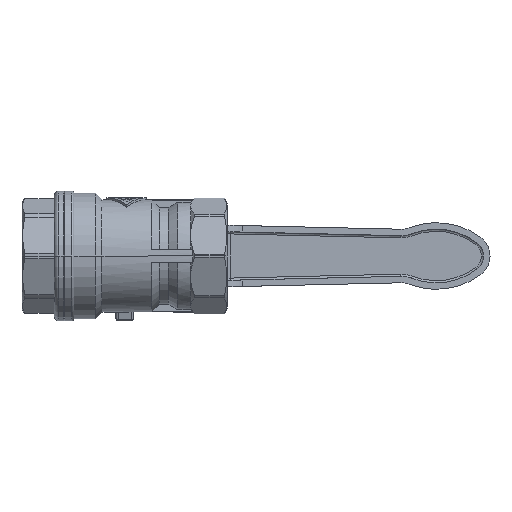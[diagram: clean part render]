
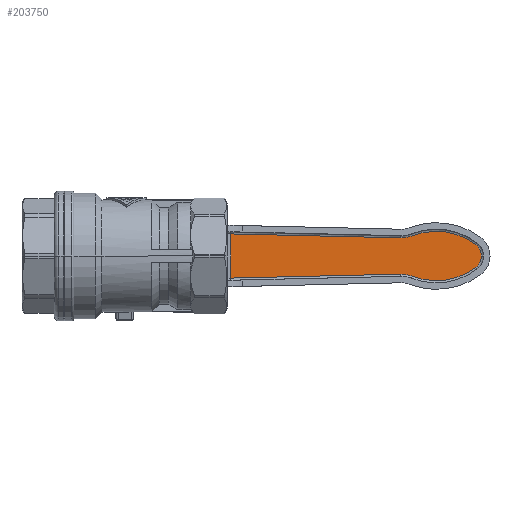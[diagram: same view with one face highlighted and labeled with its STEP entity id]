
A CAD part, front view. The second image highlights one B-rep face of the part: STEP entity #203750.
In plain terms, the highlighted planar face has unit normal (0, -1, 0).
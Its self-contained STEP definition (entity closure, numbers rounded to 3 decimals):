
#181770=CARTESIAN_POINT('',(0.,39.699,
-5.669));
#181780=DIRECTION('',(-1.,0.,
0.023));
#181790=VECTOR('',#181780,1.);
#181800=LINE('',#181770,#181790);
#181810=CARTESIAN_POINT('',(-24.485,39.699,
-5.105));
#181820=VERTEX_POINT('',#181810);
#181830=CARTESIAN_POINT('',(-63.838,39.699,
-4.199));
#181840=VERTEX_POINT('',#181830);
#181850=EDGE_CURVE('',#181820,#181840,#181800,.T.);
#182820=CARTESIAN_POINT('',(-24.485,39.699,
5.105));
#182830=VERTEX_POINT('',#182820);
#183790=CARTESIAN_POINT('',(-24.485,39.699,
0.));
#183800=DIRECTION('',(0.,0.,1.));
#183810=VECTOR('',#183800,1.);
#183820=LINE('',#183790,#183810);
#183830=EDGE_CURVE('',#181820,#182830,#183820,.T.);
#184010=CARTESIAN_POINT('',(-64.,39.699,
11.197));
#184020=DIRECTION('',(0.,1.,0.));
#184030=DIRECTION('',(-1.,0.,0.));
#184040=AXIS2_PLACEMENT_3D('',#184010,#184020,#184030);
#184050=CIRCLE('',#184040,7.);
#184060=CARTESIAN_POINT('',(-63.838,39.699,
4.199));
#184070=VERTEX_POINT('',#184060);
#184080=CARTESIAN_POINT('',(-66.547,39.699,
4.677));
#184090=VERTEX_POINT('',#184080);
#184100=EDGE_CURVE('',#184070,#184090,#184050,.T.);
#184420=CARTESIAN_POINT('',(-72.059,39.699,
-9.431));
#184430=DIRECTION('',(0.,1.,0.));
#184440=DIRECTION('',(-1.,0.,0.));
#184450=AXIS2_PLACEMENT_3D('',#184420,#184430,#184440);
#184460=CIRCLE('',#184450,15.147);
#184470=CARTESIAN_POINT('',(-81.167,39.699,
2.672));
#184480=VERTEX_POINT('',#184470);
#184490=EDGE_CURVE('',#184480,#184090,#184460,.T.);
#185130=CARTESIAN_POINT('',(-64.,39.699,
-11.197));
#185140=DIRECTION('',(0.,1.,0.));
#185150=DIRECTION('',(-1.,0.,0.));
#185160=AXIS2_PLACEMENT_3D('',#185130,#185140,#185150);
#185170=CIRCLE('',#185160,7.);
#185180=CARTESIAN_POINT('',(-66.547,39.699,
-4.677));
#185190=VERTEX_POINT('',#185180);
#185200=EDGE_CURVE('',#185190,#181840,#185170,.T.);
#186010=CARTESIAN_POINT('',(-72.059,39.699,
9.431));
#186020=DIRECTION('',(0.,1.,0.));
#186030=DIRECTION('',(-1.,0.,0.));
#186040=AXIS2_PLACEMENT_3D('',#186010,#186020,#186030);
#186050=CIRCLE('',#186040,15.147);
#186060=CARTESIAN_POINT('',(-81.167,39.699,
-2.672));
#186070=VERTEX_POINT('',#186060);
#186080=EDGE_CURVE('',#185190,#186070,#186050,.T.);
#186340=CARTESIAN_POINT('',(-79.156,39.699,
0.));
#186350=DIRECTION('',(0.,1.,0.));
#186360=DIRECTION('',(-1.,0.,0.));
#186370=AXIS2_PLACEMENT_3D('',#186340,#186350,#186360);
#186380=CIRCLE('',#186370,3.344);
#186390=CARTESIAN_POINT('',(-82.5,39.699,
0.));
#186400=VERTEX_POINT('',#186390);
#186410=EDGE_CURVE('',#186400,#184480,#186380,.T.);
#203530=CARTESIAN_POINT('',(0.,39.699,
0.));
#203540=DIRECTION('',(0.,1.,0.));
#203550=DIRECTION('',(-1.,0.,0.));
#203560=AXIS2_PLACEMENT_3D('',#203530,#203540,#203550);
#203570=PLANE('',#203560);
#203580=EDGE_CURVE('',#186070,#186400,#186380,.T.);
#203590=ORIENTED_EDGE('',*,*,#203580,.F.);
#203600=ORIENTED_EDGE('',*,*,#186410,.F.);
#203610=ORIENTED_EDGE('',*,*,#184490,.F.);
#203620=ORIENTED_EDGE('',*,*,#184100,.T.);
#203630=CARTESIAN_POINT('',(0.,39.699,
5.669));
#203640=DIRECTION('',(1.,0.,
0.023));
#203650=VECTOR('',#203640,1.);
#203660=LINE('',#203630,#203650);
#203670=EDGE_CURVE('',#184070,#182830,#203660,.T.);
#203680=ORIENTED_EDGE('',*,*,#203670,.F.);
#203690=ORIENTED_EDGE('',*,*,#183830,.T.);
#203700=ORIENTED_EDGE('',*,*,#181850,.F.);
#203710=ORIENTED_EDGE('',*,*,#185200,.T.);
#203720=ORIENTED_EDGE('',*,*,#186080,.F.);
#203730=EDGE_LOOP('',(#203720,#203710,#203700,#203690,#203680,#203620,
#203610,#203600,#203590));
#203740=FACE_OUTER_BOUND('',#203730,.T.);
#203750=ADVANCED_FACE('',(#203740),#203570,.F.);
